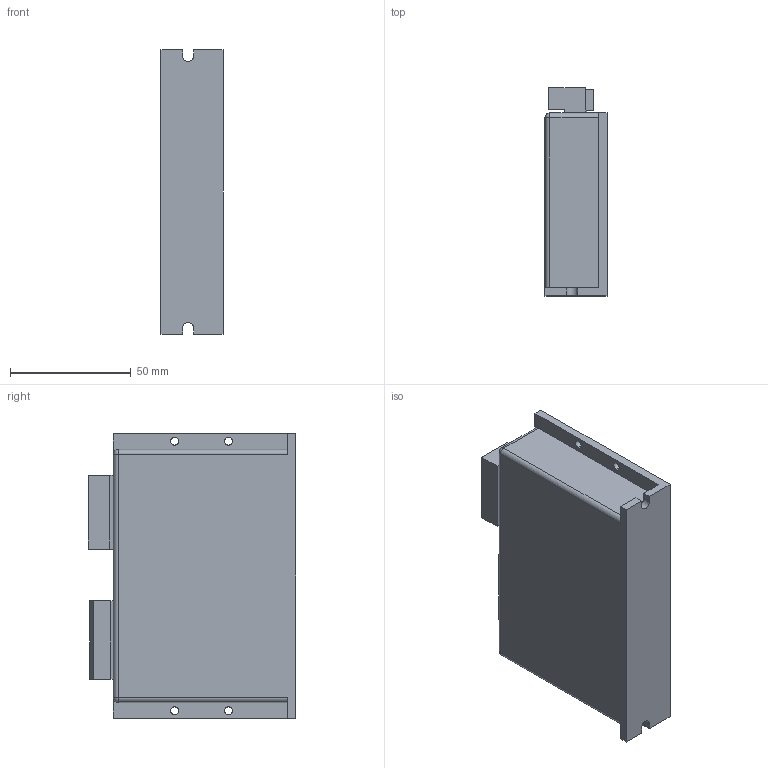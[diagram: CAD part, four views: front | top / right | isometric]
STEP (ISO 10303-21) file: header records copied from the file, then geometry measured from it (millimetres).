
FILE_DESCRIPTION((''),'2;1');
FILE_NAME('S4AP','2024-06-23T17:18:08',('jason'),(''),'CREO PARAMETRIC BY PTC INC, 2022073','CREO PARAMETRIC BY PTC INC, 2022073','');
FILE_SCHEMA(('CONFIG_CONTROL_DESIGN'));
Length unit declared in the file: millimetre
Products named in the file (1): S4AP
Bounding box: 25.7 x 86.11 x 117.8 mm (x, y, z)
Volume: 214863.9 mm3; surface area: 30413 mm2
Topology: 1 solids, 1 shells, 66 faces, 174 edges, 114 vertices
Faces by surface type: plane 49, cylinder 15, sphere 2
Entity records: 2074 total; most frequent: CARTESIAN_POINT 354, ORIENTED_EDGE 348, DIRECTION 336, EDGE_CURVE 174, VECTOR 144, LINE 144, VERTEX_POINT 114, AXIS2_PLACEMENT_3D 96
